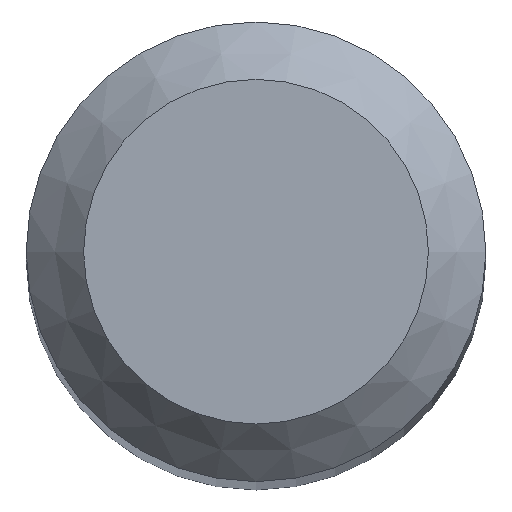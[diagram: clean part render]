
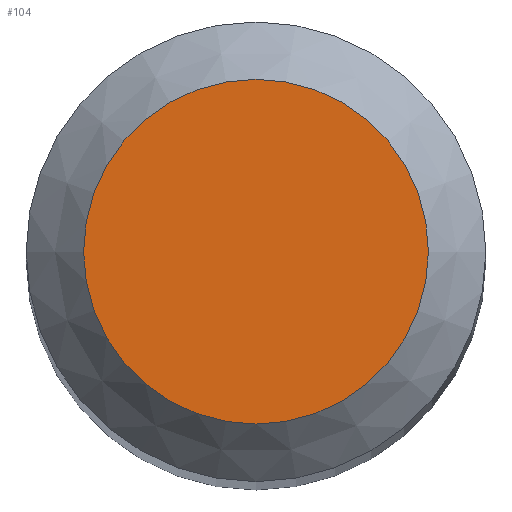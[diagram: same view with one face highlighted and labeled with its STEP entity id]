
A CAD part, top view. The second image highlights one B-rep face of the part: STEP entity #104.
In plain terms, the highlighted planar face has unit normal (0, 0, 1).
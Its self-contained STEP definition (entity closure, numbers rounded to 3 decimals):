
#88=CARTESIAN_POINT('',(1.5,0.0,52.));
#89=DIRECTION('',(0.0,0.0,1.0));
#90=DIRECTION('',(1.0,0.0,0.0));
#91=AXIS2_PLACEMENT_3D('',#88,#89,#90);
#92=PLANE('',#91);
#93=CARTESIAN_POINT('',(-1.5,0.0,52.));
#94=VERTEX_POINT('',#93);
#95=CARTESIAN_POINT('',(0.0,0.0,52.));
#96=DIRECTION('',(0.0,0.0,-1.0));
#97=DIRECTION('',(-1.0,0.0,0.0));
#98=AXIS2_PLACEMENT_3D('',#95,#96,#97);
#99=CIRCLE('',#98,1.5);
#100=EDGE_CURVE('',#94,#94,#99,.T.);
#101=ORIENTED_EDGE('',*,*,#100,.F.);
#102=EDGE_LOOP('',(#101));
#103=FACE_OUTER_BOUND('',#102,.T.);
#104=ADVANCED_FACE('',(#103),#92,.T.);
